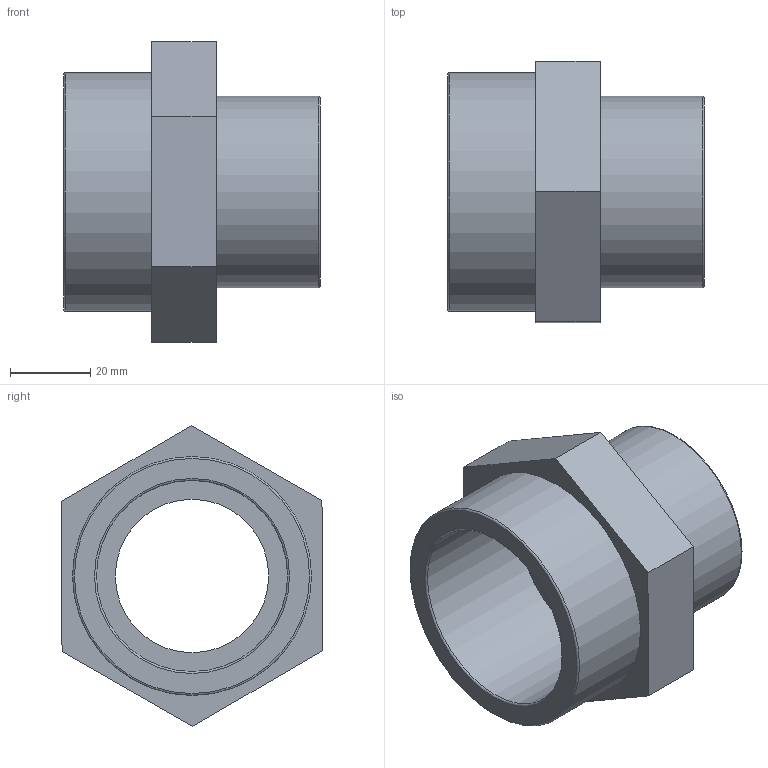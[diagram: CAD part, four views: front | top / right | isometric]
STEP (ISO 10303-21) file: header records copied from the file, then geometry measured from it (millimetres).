
FILE_DESCRIPTION(/* description */ ('PLASSON THR. REDUCING NIPPLE 2"-1.1/2" PVC'),/* implementation_level */ '2;1');
FILE_NAME(/* name */ 'C:\Dropbox\KIMPROJECTS-Inventor\99-16-3568-Processing\PVC Catalog 2017\051601\051601020015.ipt.stp',/* time_stamp */ '2017-12-07T16:01:01+02:00',/* author */ ('KIM'),/* organization */ (''),/* preprocessor_version */ 'ST-DEVELOPER v15.6',/* originating_system */ 'Autodesk Inventor 2015',/* authorisation */ '');
FILE_SCHEMA (('AUTOMOTIVE_DESIGN { 1 0 10303 214 3 1 1 }'));
Length unit declared in the file: millimetre
Products named in the file (1): 051601020015
Bounding box: 64 x 65.14 x 75.06 mm (x, y, z)
Volume: 72152.9 mm3; surface area: 25186.3 mm2
Topology: 1 solids, 1 shells, 19 faces, 38 edges, 24 vertices
Faces by surface type: plane 11, torus 4, cylinder 4
Full cylindrical faces by diameter (mm): 38.242 x1, 47.691 x1, 47.803 x1, 59.614 x1
Entity records: 480 total; most frequent: DIRECTION 82, CARTESIAN_POINT 74, ORIENTED_EDGE 60, EDGE_LOOP 32, AXIS2_PLACEMENT_3D 32, EDGE_CURVE 30, VERTEX_POINT 24, FACE_OUTER_BOUND 19
